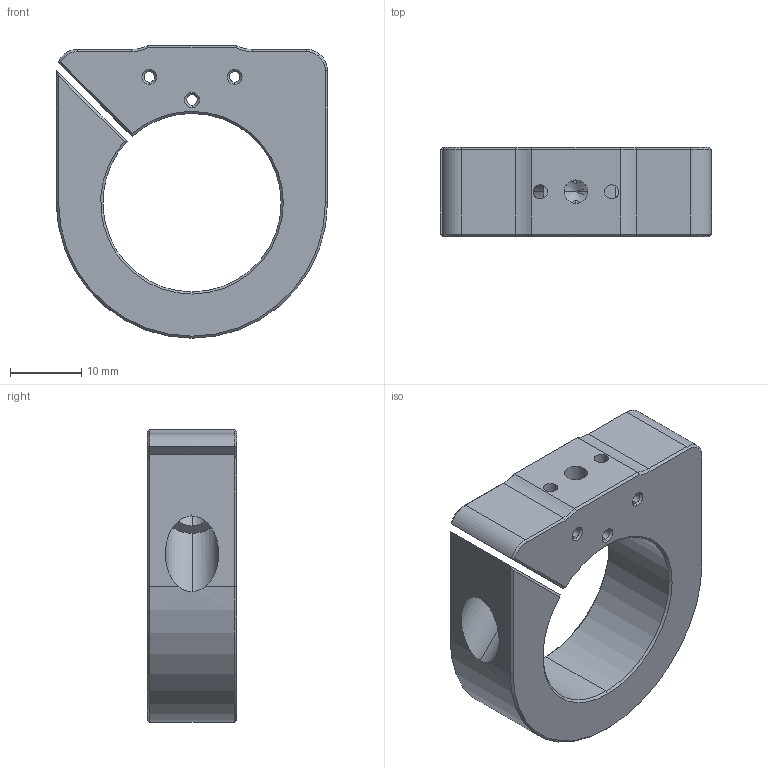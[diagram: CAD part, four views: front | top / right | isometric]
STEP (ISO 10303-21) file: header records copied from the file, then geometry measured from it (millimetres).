
FILE_DESCRIPTION (( 'STEP AP214' ), '1' );
FILE_NAME ('?25 mm諉裝賑輸.', '2026-08-10T07:58:04', ( '' ), ( '' ), 'SwSTEP 2.0', 'SolidWorks 2024', '' );
FILE_SCHEMA (( 'AUTOMOTIVE_DESIGN' ));
Length unit declared in the file: millimetre
Products named in the file (1): Ø25 mm接杆滑块
Bounding box: 38 x 12.5 x 41 mm (x, y, z)
Volume: 10396.7 mm3; surface area: 5221.4 mm2
Topology: 1 solids, 1 shells, 91 faces, 235 edges, 140 vertices
Faces by surface type: cone 34, cylinder 31, plane 26
Entity records: 2956 total; most frequent: CARTESIAN_POINT 726, ORIENTED_EDGE 466, DIRECTION 463, EDGE_CURVE 233, AXIS2_PLACEMENT_3D 179, VERTEX_POINT 140, VECTOR 105, LINE 105
